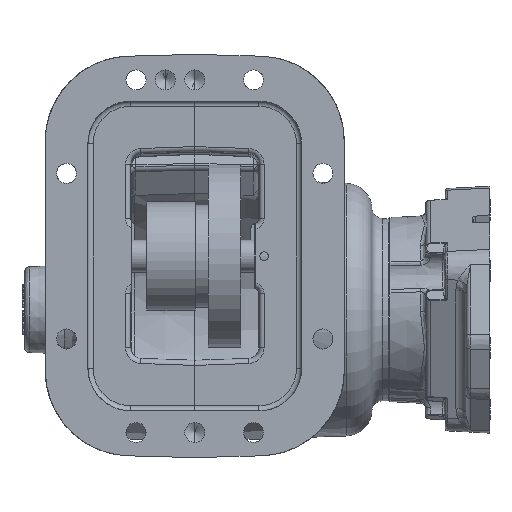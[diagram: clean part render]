
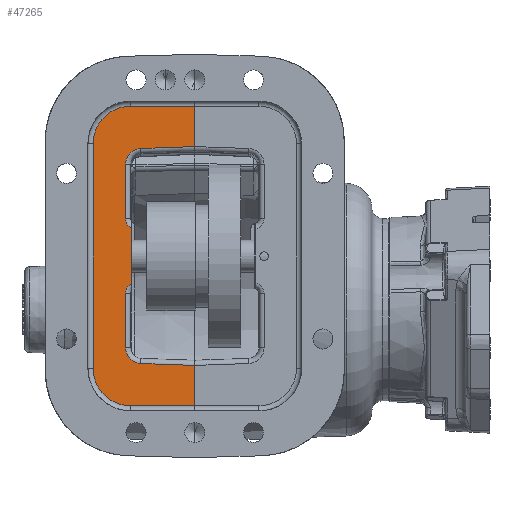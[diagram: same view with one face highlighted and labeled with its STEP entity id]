
A CAD part, front view. The second image highlights one B-rep face of the part: STEP entity #47265.
In plain terms, the highlighted planar face has unit normal (0, -1, 0).
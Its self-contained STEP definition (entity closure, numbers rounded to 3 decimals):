
#924 = LINE ( 'NONE', #85683, #935 ) ;
#935 = VECTOR ( 'NONE', #85696, 1000. ) ;
#22549 = CARTESIAN_POINT ( 'NONE',  ( -48.49, -133.047, -67.13 ) ) ;
#22550 = DIRECTION ( 'NONE',  ( -1., 0., 0. ) ) ;
#22551 = CARTESIAN_POINT ( 'NONE',  ( -48.49, -133.047, 88.572 ) ) ;
#22552 = DIRECTION ( 'NONE',  ( 0., 1., 0. ) ) ;
#22553 = DIRECTION ( 'NONE',  ( 0., 0., -1. ) ) ;
#22554 = CARTESIAN_POINT ( 'NONE',  ( -10.497, -133.047, -43.125 ) ) ;
#22555 = CARTESIAN_POINT ( 'NONE',  ( -48.49, -133.047, -44.778 ) ) ;
#22556 = DIRECTION ( 'NONE',  ( 0., 1., 0. ) ) ;
#22557 = DIRECTION ( 'NONE',  ( 0., 0., -1. ) ) ;
#22558 = DIRECTION ( 'NONE',  ( 0., 0., -1. ) ) ;
#22559 = DIRECTION ( 'NONE',  ( 0.999, 0., -0.035 ) ) ;
#22560 = CARTESIAN_POINT ( 'NONE',  ( -51.538, -133.047, -32.617 ) ) ;
#22561 = CARTESIAN_POINT ( 'NONE',  ( -42.14, -133.047, -32.617 ) ) ;
#22562 = DIRECTION ( 'NONE',  ( 0., -1., 0. ) ) ;
#22563 = DIRECTION ( 'NONE',  ( 0., 0., -1. ) ) ;
#22568 = CARTESIAN_POINT ( 'NONE',  ( -45.442, -133.047, -0.265 ) ) ;
#22569 = DIRECTION ( 'NONE',  ( 0., -1., 0. ) ) ;
#22570 = DIRECTION ( 'NONE',  ( 0., 0., -1. ) ) ;
#24012 = FACE_OUTER_BOUND ( 'NONE', #57300, .T. ) ;
#46213 = EDGE_CURVE ( 'NONE', #57755, #57752, #924, .T. ) ;
#46224 = EDGE_CURVE ( 'NONE', #57757, #57765, #80096, .T. ) ;
#46257 = EDGE_CURVE ( 'NONE', #57400, #57382, #80106, .T. ) ;
#46259 = EDGE_CURVE ( 'NONE', #57364, #57400, #80108, .T. ) ;
#46260 = EDGE_CURVE ( 'NONE', #57387, #57364, #80110, .T. ) ;
#46262 = EDGE_CURVE ( 'NONE', #57321, #57387, #80103, .T. ) ;
#46263 = EDGE_CURVE ( 'NONE', #57757, #57321, #80113, .T. ) ;
#46266 = EDGE_CURVE ( 'NONE', #57701, #57765, #80111, .T. ) ;
#46267 = EDGE_CURVE ( 'NONE', #57496, #57701, #80114, .T. ) ;
#46269 = EDGE_CURVE ( 'NONE', #57393, #57496, #80118, .T. ) ;
#46272 = EDGE_CURVE ( 'NONE', #57394, #57393, #80119, .T. ) ;
#46274 = EDGE_CURVE ( 'NONE', #57755, #57394, #80121, .T. ) ;
#46276 = EDGE_CURVE ( 'NONE', #57497, #57752, #80116, .T. ) ;
#46277 = EDGE_CURVE ( 'NONE', #57535, #57497, #80122, .T. ) ;
#46279 = EDGE_CURVE ( 'NONE', #57502, #57535, #80126, .T. ) ;
#46281 = EDGE_CURVE ( 'NONE', #57382, #57502, #80124, .T. ) ;
#47265 = ADVANCED_FACE ( 'NONE', ( #24012 ), #98203, .F. ) ;
#57300 = EDGE_LOOP ( 'NONE', ( #126649, #126650, #126651, #126652, #126653, #126654, #126655, #126656, #126657, #126658, #126659, #126660, #126661, #126662, #126663, #126664 ) ) ;
#57321 = VERTEX_POINT ( 'NONE', #132396 ) ;
#57364 = VERTEX_POINT ( 'NONE', #132439 ) ;
#57382 = VERTEX_POINT ( 'NONE', #132457 ) ;
#57387 = VERTEX_POINT ( 'NONE', #132462 ) ;
#57393 = VERTEX_POINT ( 'NONE', #132468 ) ;
#57394 = VERTEX_POINT ( 'NONE', #132469 ) ;
#57400 = VERTEX_POINT ( 'NONE', #132475 ) ;
#57496 = VERTEX_POINT ( 'NONE', #132571 ) ;
#57497 = VERTEX_POINT ( 'NONE', #132572 ) ;
#57502 = VERTEX_POINT ( 'NONE', #132577 ) ;
#57535 = VERTEX_POINT ( 'NONE', #132596 ) ;
#57701 = VERTEX_POINT ( 'NONE', #132673 ) ;
#57752 = VERTEX_POINT ( 'NONE', #132697 ) ;
#57755 = VERTEX_POINT ( 'NONE', #132698 ) ;
#57757 = VERTEX_POINT ( 'NONE', #132699 ) ;
#57765 = VERTEX_POINT ( 'NONE', #132703 ) ;
#65853 = AXIS2_PLACEMENT_3D ( 'NONE', #86194, #86197, #86200 ) ;
#65854 = AXIS2_PLACEMENT_3D ( 'NONE', #86211, #86214, #86217 ) ;
#65855 = AXIS2_PLACEMENT_3D ( 'NONE', #22551, #22552, #22553 ) ;
#65856 = AXIS2_PLACEMENT_3D ( 'NONE', #22555, #22556, #22557 ) ;
#65857 = AXIS2_PLACEMENT_3D ( 'NONE', #22561, #22562, #22563 ) ;
#65858 = AXIS2_PLACEMENT_3D ( 'NONE', #22568, #22569, #22570 ) ;
#65974 = AXIS2_PLACEMENT_3D ( 'NONE', #98217, #98220, #98222 ) ;
#80096 = LINE ( 'NONE', #85746, #80099 ) ;
#80099 = VECTOR ( 'NONE', #85749, 1000. ) ;
#80103 = CIRCLE ( 'NONE', #65854, 9.398 ) ;
#80106 = LINE ( 'NONE', #86109, #80109 ) ;
#80108 = CIRCLE ( 'NONE', #65853, 6.096 ) ;
#80109 = VECTOR ( 'NONE', #86114, 1000. ) ;
#80110 = LINE ( 'NONE', #86171, #80112 ) ;
#80111 = LINE ( 'NONE', #86209, #80117 ) ;
#80112 = VECTOR ( 'NONE', #86176, 1000. ) ;
#80113 = LINE ( 'NONE', #86202, #80115 ) ;
#80114 = CIRCLE ( 'NONE', #65855, 22.352 ) ;
#80115 = VECTOR ( 'NONE', #86188, 1000. ) ;
#80116 = LINE ( 'NONE', #22554, #80125 ) ;
#80117 = VECTOR ( 'NONE', #86221, 1000. ) ;
#80118 = LINE ( 'NONE', #86225, #80120 ) ;
#80119 = CIRCLE ( 'NONE', #65856, 22.352 ) ;
#80120 = VECTOR ( 'NONE', #86220, 1000. ) ;
#80121 = LINE ( 'NONE', #22549, #80123 ) ;
#80122 = CIRCLE ( 'NONE', #65857, 9.398 ) ;
#80123 = VECTOR ( 'NONE', #22550, 1000. ) ;
#80124 = CIRCLE ( 'NONE', #65858, 6.096 ) ;
#80125 = VECTOR ( 'NONE', #22559, 1000. ) ;
#80126 = LINE ( 'NONE', #22560, #80128 ) ;
#80128 = VECTOR ( 'NONE', #22558, 1000. ) ;
#85683 = CARTESIAN_POINT ( 'NONE',  ( -10.39, -133.047, -95.578 ) ) ;
#85696 = DIRECTION ( 'NONE',  ( 0., 0., 1. ) ) ;
#85746 = CARTESIAN_POINT ( 'NONE',  ( -10.39, -133.047, -95.578 ) ) ;
#85749 = DIRECTION ( 'NONE',  ( 0., 0., 1. ) ) ;
#86109 = CARTESIAN_POINT ( 'NONE',  ( -47.728, -133.047, -95.578 ) ) ;
#86114 = DIRECTION ( 'NONE',  ( 0., 0., -1. ) ) ;
#86171 = CARTESIAN_POINT ( 'NONE',  ( -51.538, -133.047, 44.059 ) ) ;
#86176 = DIRECTION ( 'NONE',  ( 0., 0., -1. ) ) ;
#86188 = DIRECTION ( 'NONE',  ( -0.999, 0., -0.035 ) ) ;
#86194 = CARTESIAN_POINT ( 'NONE',  ( -45.442, -133.047, 44.059 ) ) ;
#86197 = DIRECTION ( 'NONE',  ( 0., -1., 0. ) ) ;
#86200 = DIRECTION ( 'NONE',  ( 0., 0., -1. ) ) ;
#86202 = CARTESIAN_POINT ( 'NONE',  ( -42.468, -133.047, 85.803 ) ) ;
#86209 = CARTESIAN_POINT ( 'NONE',  ( -10.39, -133.047, 110.924 ) ) ;
#86211 = CARTESIAN_POINT ( 'NONE',  ( -42.14, -133.047, 76.41 ) ) ;
#86214 = DIRECTION ( 'NONE',  ( 0., -1., 0. ) ) ;
#86217 = DIRECTION ( 'NONE',  ( 0., 0., -1. ) ) ;
#86220 = DIRECTION ( 'NONE',  ( 0., 0., 1. ) ) ;
#86221 = DIRECTION ( 'NONE',  ( 1., 0., 0. ) ) ;
#86225 = CARTESIAN_POINT ( 'NONE',  ( -70.842, -133.047, 88.572 ) ) ;
#98203 = PLANE ( 'NONE',  #65974 ) ;
#98217 = CARTESIAN_POINT ( 'NONE',  ( -99.29, -133.047, -95.578 ) ) ;
#98220 = DIRECTION ( 'NONE',  ( 0., 1., 0. ) ) ;
#98222 = DIRECTION ( 'NONE',  ( 0., 0., -1. ) ) ;
#126649 = ORIENTED_EDGE ( 'NONE', *, *, #46257, .F. ) ;
#126650 = ORIENTED_EDGE ( 'NONE', *, *, #46259, .F. ) ;
#126651 = ORIENTED_EDGE ( 'NONE', *, *, #46260, .F. ) ;
#126652 = ORIENTED_EDGE ( 'NONE', *, *, #46262, .F. ) ;
#126653 = ORIENTED_EDGE ( 'NONE', *, *, #46263, .F. ) ;
#126654 = ORIENTED_EDGE ( 'NONE', *, *, #46224, .T. ) ;
#126655 = ORIENTED_EDGE ( 'NONE', *, *, #46266, .F. ) ;
#126656 = ORIENTED_EDGE ( 'NONE', *, *, #46267, .F. ) ;
#126657 = ORIENTED_EDGE ( 'NONE', *, *, #46269, .F. ) ;
#126658 = ORIENTED_EDGE ( 'NONE', *, *, #46272, .F. ) ;
#126659 = ORIENTED_EDGE ( 'NONE', *, *, #46274, .F. ) ;
#126660 = ORIENTED_EDGE ( 'NONE', *, *, #46213, .T. ) ;
#126661 = ORIENTED_EDGE ( 'NONE', *, *, #46276, .F. ) ;
#126662 = ORIENTED_EDGE ( 'NONE', *, *, #46277, .F. ) ;
#126663 = ORIENTED_EDGE ( 'NONE', *, *, #46279, .F. ) ;
#126664 = ORIENTED_EDGE ( 'NONE', *, *, #46281, .F. ) ;
#132396 = CARTESIAN_POINT ( 'NONE',  ( -42.468, -133.047, 85.803 ) ) ;
#132439 = CARTESIAN_POINT ( 'NONE',  ( -51.538, -133.047, 44.059 ) ) ;
#132457 = CARTESIAN_POINT ( 'NONE',  ( -47.728, -133.047, 5.386 ) ) ;
#132462 = CARTESIAN_POINT ( 'NONE',  ( -51.538, -133.047, 76.41 ) ) ;
#132468 = CARTESIAN_POINT ( 'NONE',  ( -70.842, -133.047, -44.778 ) ) ;
#132469 = CARTESIAN_POINT ( 'NONE',  ( -48.49, -133.047, -67.13 ) ) ;
#132475 = CARTESIAN_POINT ( 'NONE',  ( -47.728, -133.047, 38.408 ) ) ;
#132571 = CARTESIAN_POINT ( 'NONE',  ( -70.842, -133.047, 88.572 ) ) ;
#132572 = CARTESIAN_POINT ( 'NONE',  ( -42.468, -133.047, -42.009 ) ) ;
#132577 = CARTESIAN_POINT ( 'NONE',  ( -51.538, -133.047, -0.265 ) ) ;
#132596 = CARTESIAN_POINT ( 'NONE',  ( -51.538, -133.047, -32.617 ) ) ;
#132673 = CARTESIAN_POINT ( 'NONE',  ( -48.49, -133.047, 110.924 ) ) ;
#132697 = CARTESIAN_POINT ( 'NONE',  ( -10.39, -133.047, -43.129 ) ) ;
#132698 = CARTESIAN_POINT ( 'NONE',  ( -10.39, -133.047, -67.13 ) ) ;
#132699 = CARTESIAN_POINT ( 'NONE',  ( -10.39, -133.047, 86.923 ) ) ;
#132703 = CARTESIAN_POINT ( 'NONE',  ( -10.39, -133.047, 110.924 ) ) ;
